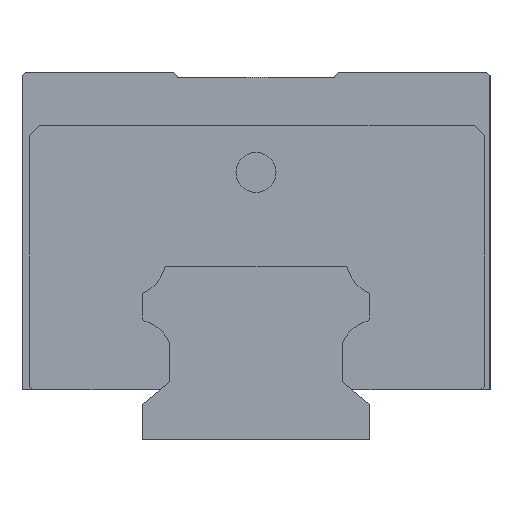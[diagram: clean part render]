
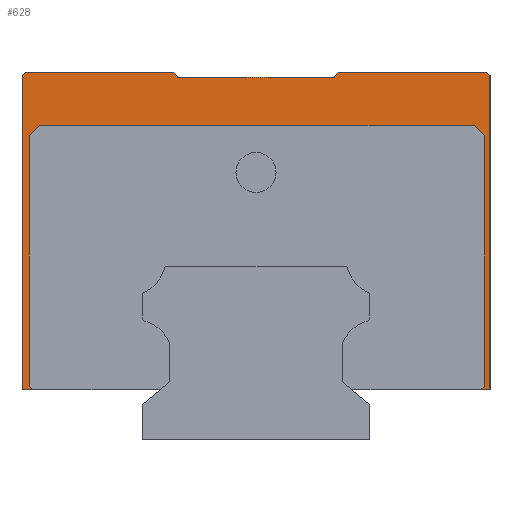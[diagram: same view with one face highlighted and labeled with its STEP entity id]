
A CAD part, left-side view. The second image highlights one B-rep face of the part: STEP entity #628.
In plain terms, the highlighted planar face has unit normal (-1, 0, 0).
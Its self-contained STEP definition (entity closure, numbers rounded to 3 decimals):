
#2 = VERTEX_POINT ( 'NONE', #2733 ) ;
#29 = LINE ( 'NONE', #1349, #3480 ) ;
#45 = VECTOR ( 'NONE', #3555, 1000. ) ;
#50 = EDGE_CURVE ( 'NONE', #5140, #848, #2617, .T. ) ;
#127 = DIRECTION ( 'NONE',  ( 1., 0., 0. ) ) ;
#131 = DIRECTION ( 'NONE',  ( 0., 0.707, -0.707 ) ) ;
#253 = DIRECTION ( 'NONE',  ( 0., -1., 0. ) ) ;
#377 = LINE ( 'NONE', #2168, #4484 ) ;
#385 = LINE ( 'NONE', #3967, #3085 ) ;
#485 = VECTOR ( 'NONE', #4512, 1000. ) ;
#512 = ORIENTED_EDGE ( 'NONE', *, *, #1508, .F. ) ;
#536 = CARTESIAN_POINT ( 'NONE',  ( -39.5, 14.65, 7.5 ) ) ;
#541 = VERTEX_POINT ( 'NONE', #4431 ) ;
#588 = LINE ( 'NONE', #2797, #5502 ) ;
#628 = ADVANCED_FACE ( 'NONE', ( #2891 ), #1890, .F. ) ;
#641 = CARTESIAN_POINT ( 'NONE',  ( -39.5, 33.872, 8. ) ) ;
#753 = VERTEX_POINT ( 'NONE', #3317 ) ;
#759 = VECTOR ( 'NONE', #3783, 1000. ) ;
#848 = VERTEX_POINT ( 'NONE', #5243 ) ;
#877 = ORIENTED_EDGE ( 'NONE', *, *, #2495, .T. ) ;
#882 = DIRECTION ( 'NONE',  ( 0., 0.707, -0.707 ) ) ;
#949 = DIRECTION ( 'NONE',  ( 0., 0.707, 0.707 ) ) ;
#969 = VERTEX_POINT ( 'NONE', #2646 ) ;
#981 = CARTESIAN_POINT ( 'NONE',  ( -39.5, -35., 55. ) ) ;
#1044 = VERTEX_POINT ( 'NONE', #4538 ) ;
#1142 = VECTOR ( 'NONE', #4671, 1000. ) ;
#1186 = VERTEX_POINT ( 'NONE', #641 ) ;
#1226 = LINE ( 'NONE', #5200, #5558 ) ;
#1296 = CARTESIAN_POINT ( 'NONE',  ( -39.5, 32.372, 47. ) ) ;
#1302 = VERTEX_POINT ( 'NONE', #1465 ) ;
#1316 = EDGE_CURVE ( 'NONE', #2600, #753, #1993, .T. ) ;
#1337 = LINE ( 'NONE', #3572, #2934 ) ;
#1348 = EDGE_LOOP ( 'NONE', ( #1485, #3319, #5688, #5159, #4171, #2863, #877, #5174, #1840, #3575, #1607, #4204, #1708, #4565, #4726, #4131, #512, #4114 ) ) ;
#1349 = CARTESIAN_POINT ( 'NONE',  ( -39.5, -35., 54.5 ) ) ;
#1465 = CARTESIAN_POINT ( 'NONE',  ( -39.5, -34.128, 45.5 ) ) ;
#1485 = ORIENTED_EDGE ( 'NONE', *, *, #5095, .F. ) ;
#1507 = AXIS2_PLACEMENT_3D ( 'NONE', #981, #127, #3796 ) ;
#1508 = EDGE_CURVE ( 'NONE', #1558, #4458, #1226, .T. ) ;
#1558 = VERTEX_POINT ( 'NONE', #3438 ) ;
#1600 = VECTOR ( 'NONE', #2183, 1000. ) ;
#1607 = ORIENTED_EDGE ( 'NONE', *, *, #2672, .T. ) ;
#1697 = CARTESIAN_POINT ( 'NONE',  ( -39.5, 33.872, 8. ) ) ;
#1708 = ORIENTED_EDGE ( 'NONE', *, *, #2234, .F. ) ;
#1813 = LINE ( 'NONE', #4018, #45 ) ;
#1818 = CARTESIAN_POINT ( 'NONE',  ( -39.5, 35., 7.5 ) ) ;
#1840 = ORIENTED_EDGE ( 'NONE', *, *, #1316, .T. ) ;
#1864 = CARTESIAN_POINT ( 'NONE',  ( -39.5, 34.5, 55. ) ) ;
#1871 = CARTESIAN_POINT ( 'NONE',  ( -39.5, -12.296, 55. ) ) ;
#1890 = PLANE ( 'NONE',  #1507 ) ;
#1957 = EDGE_CURVE ( 'NONE', #4406, #969, #5605, .T. ) ;
#1993 = LINE ( 'NONE', #3748, #1142 ) ;
#2043 = VERTEX_POINT ( 'NONE', #3162 ) ;
#2071 = EDGE_CURVE ( 'NONE', #1302, #1558, #1337, .T. ) ;
#2076 = EDGE_CURVE ( 'NONE', #541, #2600, #2620, .T. ) ;
#2096 = CARTESIAN_POINT ( 'NONE',  ( -39.5, 35., 54.5 ) ) ;
#2131 = CARTESIAN_POINT ( 'NONE',  ( -39.5, 32.372, 47. ) ) ;
#2168 = CARTESIAN_POINT ( 'NONE',  ( -39.5, -33.628, 7.5 ) ) ;
#2183 = DIRECTION ( 'NONE',  ( 0., 0., -1. ) ) ;
#2234 = EDGE_CURVE ( 'NONE', #2043, #5678, #5007, .T. ) ;
#2389 = VECTOR ( 'NONE', #3577, 1000. ) ;
#2495 = EDGE_CURVE ( 'NONE', #4406, #541, #5490, .T. ) ;
#2539 = EDGE_CURVE ( 'NONE', #848, #2, #385, .T. ) ;
#2600 = VERTEX_POINT ( 'NONE', #5073 ) ;
#2617 = LINE ( 'NONE', #3974, #1600 ) ;
#2620 = LINE ( 'NONE', #5752, #485 ) ;
#2646 = CARTESIAN_POINT ( 'NONE',  ( -39.5, -34.5, 55. ) ) ;
#2656 = CARTESIAN_POINT ( 'NONE',  ( -39.5, -12.296, 55. ) ) ;
#2672 = EDGE_CURVE ( 'NONE', #5556, #3044, #5543, .T. ) ;
#2701 = VECTOR ( 'NONE', #3034, 1000. ) ;
#2724 = LINE ( 'NONE', #1818, #5261 ) ;
#2733 = CARTESIAN_POINT ( 'NONE',  ( -39.5, -33.628, 7.5 ) ) ;
#2782 = LINE ( 'NONE', #3693, #759 ) ;
#2797 = CARTESIAN_POINT ( 'NONE',  ( -39.5, -34.128, 8. ) ) ;
#2863 = ORIENTED_EDGE ( 'NONE', *, *, #1957, .F. ) ;
#2891 = FACE_OUTER_BOUND ( 'NONE', #1348, .T. ) ;
#2934 = VECTOR ( 'NONE', #949, 1000. ) ;
#3034 = DIRECTION ( 'NONE',  ( 0., 0.643, -0.766 ) ) ;
#3044 = VERTEX_POINT ( 'NONE', #2096 ) ;
#3085 = VECTOR ( 'NONE', #3093, 1000. ) ;
#3093 = DIRECTION ( 'NONE',  ( 0., 1., 0. ) ) ;
#3127 = VECTOR ( 'NONE', #5126, 1000. ) ;
#3140 = LINE ( 'NONE', #1697, #2389 ) ;
#3162 = CARTESIAN_POINT ( 'NONE',  ( -39.5, 33.372, 7.5 ) ) ;
#3238 = CARTESIAN_POINT ( 'NONE',  ( -39.5, 34.5, 55. ) ) ;
#3317 = CARTESIAN_POINT ( 'NONE',  ( -39.5, 12.296, 55. ) ) ;
#3319 = ORIENTED_EDGE ( 'NONE', *, *, #5756, .F. ) ;
#3380 = VECTOR ( 'NONE', #131, 1000. ) ;
#3438 = CARTESIAN_POINT ( 'NONE',  ( -39.5, -32.628, 47. ) ) ;
#3479 = EDGE_CURVE ( 'NONE', #5140, #969, #29, .T. ) ;
#3480 = VECTOR ( 'NONE', #4473, 1000. ) ;
#3516 = EDGE_CURVE ( 'NONE', #5678, #3044, #2724, .T. ) ;
#3555 = DIRECTION ( 'NONE',  ( 0., -1., 0. ) ) ;
#3572 = CARTESIAN_POINT ( 'NONE',  ( -39.5, -34.128, 45.5 ) ) ;
#3575 = ORIENTED_EDGE ( 'NONE', *, *, #3962, .F. ) ;
#3577 = DIRECTION ( 'NONE',  ( 0., -0.707, -0.707 ) ) ;
#3678 = DIRECTION ( 'NONE',  ( 0., 0., 1. ) ) ;
#3693 = CARTESIAN_POINT ( 'NONE',  ( -39.5, 33.872, 45.5 ) ) ;
#3718 = EDGE_CURVE ( 'NONE', #4251, #1186, #2782, .T. ) ;
#3748 = CARTESIAN_POINT ( 'NONE',  ( -39.5, 11.667, 54.25 ) ) ;
#3783 = DIRECTION ( 'NONE',  ( 0., 0., -1. ) ) ;
#3796 = DIRECTION ( 'NONE',  ( 0., 1., 0. ) ) ;
#3960 = DIRECTION ( 'NONE',  ( 0., -0.707, 0.707 ) ) ;
#3962 = EDGE_CURVE ( 'NONE', #5556, #753, #1813, .T. ) ;
#3967 = CARTESIAN_POINT ( 'NONE',  ( -39.5, -35., 7.5 ) ) ;
#3974 = CARTESIAN_POINT ( 'NONE',  ( -39.5, -35., 55. ) ) ;
#4018 = CARTESIAN_POINT ( 'NONE',  ( -39.5, 35., 55. ) ) ;
#4114 = ORIENTED_EDGE ( 'NONE', *, *, #2071, .F. ) ;
#4131 = ORIENTED_EDGE ( 'NONE', *, *, #4519, .F. ) ;
#4171 = ORIENTED_EDGE ( 'NONE', *, *, #3479, .T. ) ;
#4204 = ORIENTED_EDGE ( 'NONE', *, *, #3516, .F. ) ;
#4251 = VERTEX_POINT ( 'NONE', #5199 ) ;
#4315 = DIRECTION ( 'NONE',  ( 0., 1., 0. ) ) ;
#4356 = CARTESIAN_POINT ( 'NONE',  ( -39.5, 35., 7.5 ) ) ;
#4379 = EDGE_CURVE ( 'NONE', #1186, #2043, #3140, .T. ) ;
#4406 = VERTEX_POINT ( 'NONE', #2656 ) ;
#4431 = CARTESIAN_POINT ( 'NONE',  ( -39.5, -11.667, 54.25 ) ) ;
#4458 = VERTEX_POINT ( 'NONE', #2131 ) ;
#4473 = DIRECTION ( 'NONE',  ( 0., 0.707, 0.707 ) ) ;
#4484 = VECTOR ( 'NONE', #3960, 1000. ) ;
#4512 = DIRECTION ( 'NONE',  ( 0., 1., 0. ) ) ;
#4519 = EDGE_CURVE ( 'NONE', #4458, #4251, #5404, .T. ) ;
#4538 = CARTESIAN_POINT ( 'NONE',  ( -39.5, -34.128, 8. ) ) ;
#4565 = ORIENTED_EDGE ( 'NONE', *, *, #4379, .F. ) ;
#4620 = VECTOR ( 'NONE', #253, 1000. ) ;
#4671 = DIRECTION ( 'NONE',  ( 0., 0.643, 0.766 ) ) ;
#4726 = ORIENTED_EDGE ( 'NONE', *, *, #3718, .F. ) ;
#5007 = LINE ( 'NONE', #536, #3127 ) ;
#5073 = CARTESIAN_POINT ( 'NONE',  ( -39.5, 11.667, 54.25 ) ) ;
#5095 = EDGE_CURVE ( 'NONE', #1044, #1302, #588, .T. ) ;
#5126 = DIRECTION ( 'NONE',  ( 0., 1., 0. ) ) ;
#5140 = VERTEX_POINT ( 'NONE', #5473 ) ;
#5159 = ORIENTED_EDGE ( 'NONE', *, *, #50, .F. ) ;
#5174 = ORIENTED_EDGE ( 'NONE', *, *, #2076, .T. ) ;
#5199 = CARTESIAN_POINT ( 'NONE',  ( -39.5, 33.872, 45.5 ) ) ;
#5200 = CARTESIAN_POINT ( 'NONE',  ( -39.5, -32.628, 47. ) ) ;
#5243 = CARTESIAN_POINT ( 'NONE',  ( -39.5, -35., 7.5 ) ) ;
#5261 = VECTOR ( 'NONE', #5426, 1000. ) ;
#5404 = LINE ( 'NONE', #1296, #5591 ) ;
#5426 = DIRECTION ( 'NONE',  ( 0., 0., 1. ) ) ;
#5473 = CARTESIAN_POINT ( 'NONE',  ( -39.5, -35., 54.5 ) ) ;
#5490 = LINE ( 'NONE', #1871, #2701 ) ;
#5502 = VECTOR ( 'NONE', #3678, 1000. ) ;
#5543 = LINE ( 'NONE', #1864, #3380 ) ;
#5556 = VERTEX_POINT ( 'NONE', #3238 ) ;
#5558 = VECTOR ( 'NONE', #4315, 1000. ) ;
#5591 = VECTOR ( 'NONE', #882, 1000. ) ;
#5605 = LINE ( 'NONE', #5662, #4620 ) ;
#5662 = CARTESIAN_POINT ( 'NONE',  ( -39.5, 35., 55. ) ) ;
#5678 = VERTEX_POINT ( 'NONE', #4356 ) ;
#5688 = ORIENTED_EDGE ( 'NONE', *, *, #2539, .F. ) ;
#5752 = CARTESIAN_POINT ( 'NONE',  ( -39.5, -11.667, 54.25 ) ) ;
#5756 = EDGE_CURVE ( 'NONE', #2, #1044, #377, .T. ) ;
